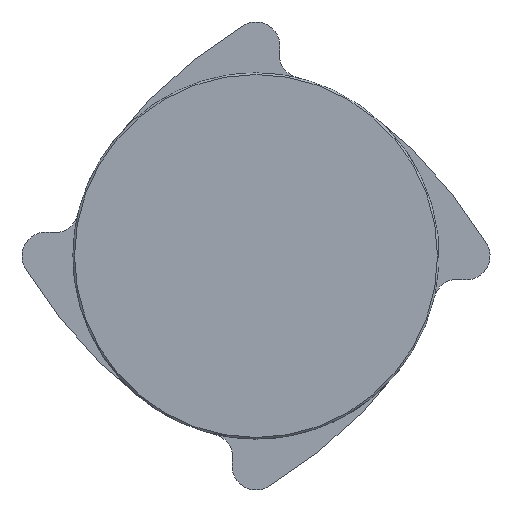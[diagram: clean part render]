
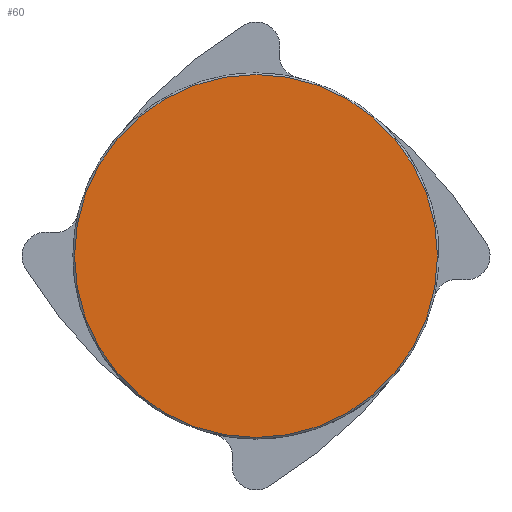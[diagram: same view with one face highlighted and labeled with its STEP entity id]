
A CAD part, front view. The second image highlights one B-rep face of the part: STEP entity #60.
In plain terms, the highlighted planar face has unit normal (0, -1, 0).
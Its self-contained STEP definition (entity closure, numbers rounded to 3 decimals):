
#60=ADVANCED_FACE('',(#269),#268,.T.);
#268=PLANE('',#455);
#269=FACE_OUTER_BOUND('',#456,.T.);
#452=CARTESIAN_POINT('',(-141.24,-6.,36.089));
#453=DIRECTION('',(0.,-1.,0.));
#454=DIRECTION('',(0.,0.,-1.));
#455=AXIS2_PLACEMENT_3D('',#452,#453,#454);
#456=EDGE_LOOP('',(#600,#601));
#600=ORIENTED_EDGE('',*,*,#700,.T.);
#601=ORIENTED_EDGE('',*,*,#701,.T.);
#700=EDGE_CURVE('',#1038,#1039,#1040,.T.);
#701=EDGE_CURVE('',#1039,#1038,#1046,.T.);
#1038=VERTEX_POINT('',#1366);
#1039=VERTEX_POINT('',#1367);
#1040=CIRCLE('',#1371,57.);
#1046=CIRCLE('',#1375,57.);
#1366=CARTESIAN_POINT('',(-32.513,-6.,-144.911));
#1367=CARTESIAN_POINT('',(-32.513,-6.,-30.911));
#1368=CARTESIAN_POINT('',(-32.513,-6.,-87.911));
#1369=DIRECTION('',(0.,-1.,0.));
#1370=DIRECTION('',(0.,0.,-1.));
#1371=AXIS2_PLACEMENT_3D('',#1368,#1369,#1370);
#1372=CARTESIAN_POINT('',(-32.513,-6.,-87.911));
#1373=DIRECTION('',(0.,-1.,0.));
#1374=DIRECTION('',(0.,0.,-1.));
#1375=AXIS2_PLACEMENT_3D('',#1372,#1373,#1374);
